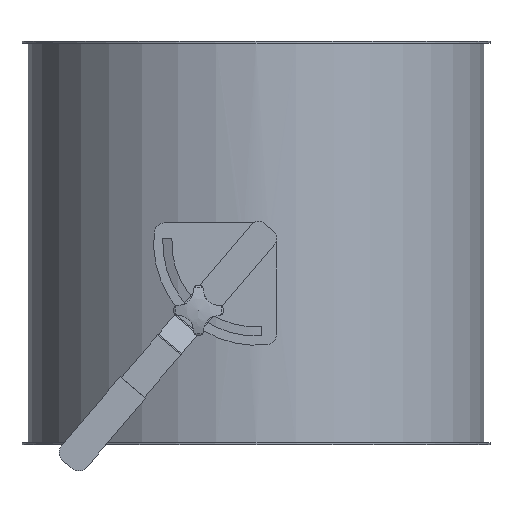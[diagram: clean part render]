
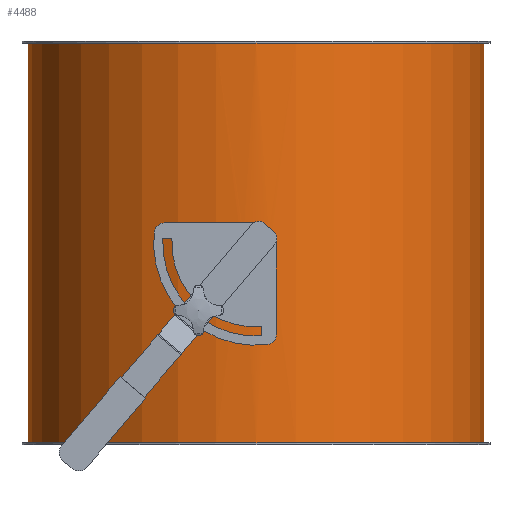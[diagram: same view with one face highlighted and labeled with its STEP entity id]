
A CAD part, left-side view. The second image highlights one B-rep face of the part: STEP entity #4488.
In plain terms, the highlighted cylindrical face has radius 226 mm (diameter 452 mm), a full revolution.
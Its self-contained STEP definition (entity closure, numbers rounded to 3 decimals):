
#4378=CARTESIAN_POINT('',(225.19,19.119,200.));
#4379=VERTEX_POINT('',#4378);
#4389=CARTESIAN_POINT('',(225.19,19.118,200.));
#4390=CARTESIAN_POINT('',(225.19,19.118,200.002));
#4391=CARTESIAN_POINT('',(225.19,19.118,200.004));
#4392=CARTESIAN_POINT('',(225.19,19.118,200.006));
#4393=CARTESIAN_POINT('',(225.19,19.117,202.908));
#4394=CARTESIAN_POINT('',(225.304,17.837,208.699));
#4395=CARTESIAN_POINT('',(225.698,12.344,215.75));
#4396=CARTESIAN_POINT('',(226.012,4.439,219.648));
#4397=CARTESIAN_POINT('',(226.013,-4.381,219.664));
#4398=CARTESIAN_POINT('',(225.699,-12.308,215.777));
#4399=CARTESIAN_POINT('',(225.351,-17.188,209.558));
#4400=CARTESIAN_POINT('',(225.184,-19.188,202.963));
#4401=CARTESIAN_POINT('',(225.184,-19.189,197.071));
#4402=CARTESIAN_POINT('',(225.374,-16.935,189.529));
#4403=CARTESIAN_POINT('',(225.752,-11.511,183.585));
#4404=CARTESIAN_POINT('',(226.012,-3.431,180.347));
#4405=CARTESIAN_POINT('',(226.013,4.389,180.339));
#4406=CARTESIAN_POINT('',(225.699,12.322,184.227));
#4407=CARTESIAN_POINT('',(225.372,16.898,190.087));
#4408=CARTESIAN_POINT('',(225.218,18.792,195.614));
#4409=CARTESIAN_POINT('',(225.19,19.118,198.551));
#4410=CARTESIAN_POINT('',(225.19,19.118,200.));
#4411=B_SPLINE_CURVE_WITH_KNOTS('',3,(#4389,#4390,#4391,#4392,#4393,#4394,#4395,#4396,#4397,#4398,#4399,#4400,#4401,#4402,#4403,#4404,#4405,#4406,#4407,#4408,#4409,#4410),.UNSPECIFIED.,.T.,.U.,(4,3,1,1,1,1,1,1,1,1,1,1,1,1,1,1,1,4),(-9.044,-9.043,-8.397,-7.751,-7.105,-6.46,-5.814,-5.168,-4.737,-4.306,-3.876,-3.014,-2.584,-1.938,-1.292,-0.646,-0.323,0.),.UNSPECIFIED.);
#4412=EDGE_CURVE('',#4379,#4379,#4411,.T.);
#4417=CARTESIAN_POINT('',(0.0,0.0,0.0));
#4418=DIRECTION('',(0.0,0.0,1.0));
#4419=DIRECTION('',(-1.0,0.0,0.0));
#4420=AXIS2_PLACEMENT_3D('',#4417,#4418,#4419);
#4421=CYLINDRICAL_SURFACE('',#4420,226.0);
#4422=CARTESIAN_POINT('',(226.0,0.,398.0));
#4423=VERTEX_POINT('',#4422);
#4424=CARTESIAN_POINT('',(0.0,0.0,398.0));
#4425=DIRECTION('',(0.0,0.0,-1.0));
#4426=DIRECTION('',(-1.0,0.0,0.0));
#4427=AXIS2_PLACEMENT_3D('',#4424,#4425,#4426);
#4428=CIRCLE('',#4427,226.0);
#4429=EDGE_CURVE('',#4423,#4423,#4428,.T.);
#4430=ORIENTED_EDGE('',*,*,#4429,.T.);
#4431=EDGE_LOOP('',(#4430));
#4432=FACE_OUTER_BOUND('',#4431,.T.);
#4433=CARTESIAN_POINT('',(-226.0,0.,2.0));
#4434=VERTEX_POINT('',#4433);
#4435=CARTESIAN_POINT('',(0.0,0.0,2.0));
#4436=DIRECTION('',(0.0,0.0,1.0));
#4437=DIRECTION('',(-1.0,0.0,0.0));
#4438=AXIS2_PLACEMENT_3D('',#4435,#4436,#4437);
#4439=CIRCLE('',#4438,226.0);
#4440=EDGE_CURVE('',#4434,#4434,#4439,.T.);
#4441=ORIENTED_EDGE('',*,*,#4440,.T.);
#4442=EDGE_LOOP('',(#4441));
#4443=FACE_BOUND('',#4442,.T.);
#4444=CARTESIAN_POINT('',(-225.502,15.,200.0));
#4445=VERTEX_POINT('',#4444);
#4446=CARTESIAN_POINT('',(-225.502,15.,200.0));
#4447=CARTESIAN_POINT('',(-225.502,15.,201.884));
#4448=CARTESIAN_POINT('',(-225.528,14.623,203.893));
#4449=CARTESIAN_POINT('',(-225.622,13.092,207.589));
#4450=CARTESIAN_POINT('',(-225.688,11.938,209.275));
#4451=CARTESIAN_POINT('',(-225.814,9.275,211.938));
#4452=CARTESIAN_POINT('',(-225.88,7.589,213.092));
#4453=CARTESIAN_POINT('',(-225.974,3.893,214.623));
#4454=CARTESIAN_POINT('',(-226.0,1.884,215.0));
#4455=CARTESIAN_POINT('',(-226.0,-1.884,215.0));
#4456=CARTESIAN_POINT('',(-225.974,-3.893,214.623));
#4457=CARTESIAN_POINT('',(-225.88,-7.589,213.092));
#4458=CARTESIAN_POINT('',(-225.814,-9.275,211.938));
#4459=CARTESIAN_POINT('',(-225.688,-11.938,209.275));
#4460=CARTESIAN_POINT('',(-225.622,-13.092,207.589));
#4461=CARTESIAN_POINT('',(-225.528,-14.623,203.893));
#4462=CARTESIAN_POINT('',(-225.502,-15.0,201.884));
#4463=CARTESIAN_POINT('',(-225.502,-15.0,198.116));
#4464=CARTESIAN_POINT('',(-225.528,-14.623,196.107));
#4465=CARTESIAN_POINT('',(-225.622,-13.092,192.411));
#4466=CARTESIAN_POINT('',(-225.688,-11.938,190.725));
#4467=CARTESIAN_POINT('',(-225.814,-9.275,188.062));
#4468=CARTESIAN_POINT('',(-225.88,-7.589,186.908));
#4469=CARTESIAN_POINT('',(-225.974,-3.893,185.377));
#4470=CARTESIAN_POINT('',(-226.0,-1.884,185.0));
#4471=CARTESIAN_POINT('',(-226.0,1.884,185.0));
#4472=CARTESIAN_POINT('',(-225.974,3.893,185.377));
#4473=CARTESIAN_POINT('',(-225.88,7.589,186.908));
#4474=CARTESIAN_POINT('',(-225.814,9.275,188.062));
#4475=CARTESIAN_POINT('',(-225.688,11.938,190.725));
#4476=CARTESIAN_POINT('',(-225.622,13.092,192.411));
#4477=CARTESIAN_POINT('',(-225.528,14.623,196.107));
#4478=CARTESIAN_POINT('',(-225.502,15.0,198.116));
#4479=CARTESIAN_POINT('',(-225.502,15.0,200.));
#4480=B_SPLINE_CURVE_WITH_KNOTS('',3,(#4446,#4447,#4448,#4449,#4450,#4451,#4452,#4453,#4454,#4455,#4456,#4457,#4458,#4459,#4460,#4461,#4462,#4463,#4464,#4465,#4466,#4467,#4468,#4469,#4470,#4471,#4472,#4473,#4474,#4475,#4476,#4477,#4478,#4479),.UNSPECIFIED.,.T.,.U.,(4,2,2,2,2,2,2,2,2,2,2,2,2,2,2,2,4),(0.0,0.565,1.13,1.696,2.261,2.826,3.391,3.956,4.522,5.087,5.652,6.217,6.782,7.348,7.913,8.478,9.043),.UNSPECIFIED.);
#4481=EDGE_CURVE('',#4445,#4445,#4480,.T.);
#4482=ORIENTED_EDGE('',*,*,#4481,.T.);
#4483=EDGE_LOOP('',(#4482));
#4484=FACE_BOUND('',#4483,.T.);
#4485=ORIENTED_EDGE('',*,*,#4412,.F.);
#4486=EDGE_LOOP('',(#4485));
#4487=FACE_BOUND('',#4486,.T.);
#4488=ADVANCED_FACE('',(#4432,#4443,#4484,#4487),#4421,.T.);
